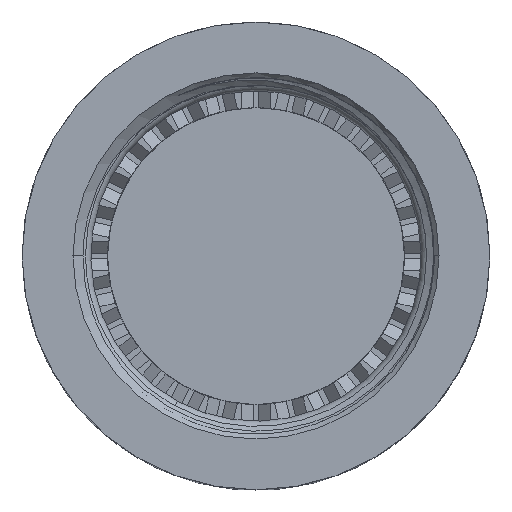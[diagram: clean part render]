
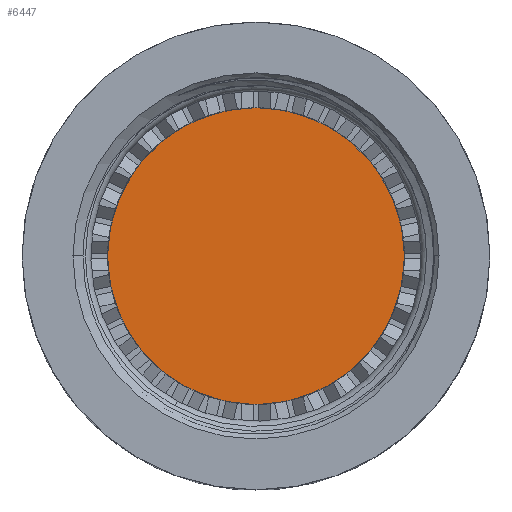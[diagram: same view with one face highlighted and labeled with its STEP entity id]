
A CAD part, top view. The second image highlights one B-rep face of the part: STEP entity #6447.
In plain terms, the highlighted planar face has unit normal (0, 0, 1).
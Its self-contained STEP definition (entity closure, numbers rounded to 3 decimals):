
#640 = VERTEX_POINT ( 'NONE', #3884 ) ;
#1103 = CARTESIAN_POINT ( 'NONE',  ( -10.338, 0., -2.059 ) ) ;
#1177 = DIRECTION ( 'NONE',  ( -1., 0., 0. ) ) ;
#1297 = CIRCLE ( 'NONE', #3793, 10.338 ) ;
#1321 = ORIENTED_EDGE ( 'NONE', *, *, #7060, .T. ) ;
#1999 = DIRECTION ( 'NONE',  ( -1., 0., 0. ) ) ;
#2852 = DIRECTION ( 'NONE',  ( -1., 0., 0. ) ) ;
#2858 = EDGE_LOOP ( 'NONE', ( #1321, #6875 ) ) ;
#3006 = CIRCLE ( 'NONE', #4770, 10.338 ) ;
#3109 = CARTESIAN_POINT ( 'NONE',  ( 0., 0., -2.059 ) ) ;
#3453 = FACE_OUTER_BOUND ( 'NONE', #2858, .T. ) ;
#3546 = AXIS2_PLACEMENT_3D ( 'NONE', #5850, #5891, #2852 ) ;
#3793 = AXIS2_PLACEMENT_3D ( 'NONE', #3109, #6693, #1999 ) ;
#3884 = CARTESIAN_POINT ( 'NONE',  ( 10.338, 0., -2.059 ) ) ;
#4154 = CARTESIAN_POINT ( 'NONE',  ( 0., 0., -2.059 ) ) ;
#4770 = AXIS2_PLACEMENT_3D ( 'NONE', #4154, #6561, #1177 ) ;
#5425 = EDGE_CURVE ( 'NONE', #7310, #640, #3006, .T. ) ;
#5850 = CARTESIAN_POINT ( 'NONE',  ( 0., 0., -2.059 ) ) ;
#5891 = DIRECTION ( 'NONE',  ( 0., 0., -1. ) ) ;
#6447 = ADVANCED_FACE ( 'NONE', ( #3453 ), #7608, .F. ) ;
#6561 = DIRECTION ( 'NONE',  ( 0., 0., 1. ) ) ;
#6693 = DIRECTION ( 'NONE',  ( 0., 0., 1. ) ) ;
#6875 = ORIENTED_EDGE ( 'NONE', *, *, #5425, .T. ) ;
#7060 = EDGE_CURVE ( 'NONE', #640, #7310, #1297, .T. ) ;
#7310 = VERTEX_POINT ( 'NONE', #1103 ) ;
#7608 = PLANE ( 'NONE',  #3546 ) ;
